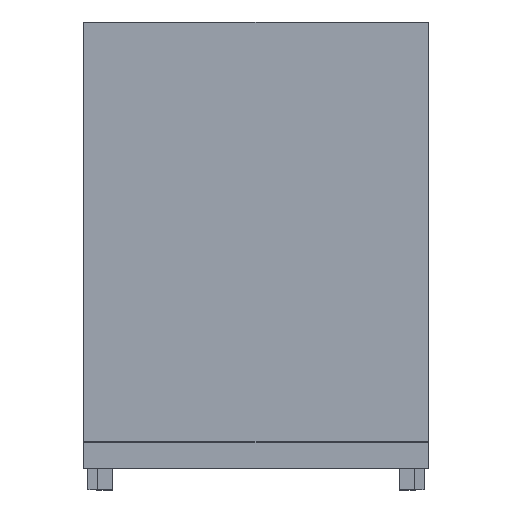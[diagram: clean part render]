
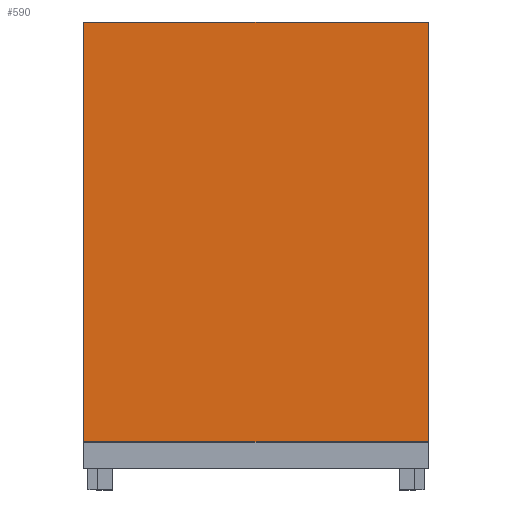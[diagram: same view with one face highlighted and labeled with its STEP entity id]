
A CAD part, top view. The second image highlights one B-rep face of the part: STEP entity #590.
In plain terms, the highlighted planar face has unit normal (0, 0, 1).
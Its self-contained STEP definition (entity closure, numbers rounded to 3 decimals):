
#590=ADVANCED_FACE('',(#4774),#4776,.T.);
#4774=FACE_BOUND('',#4775,.T.);
#4775=EDGE_LOOP('',(#8452,#8453,#8454,#8455));
#4776=PLANE('',#4777);
#4777=AXIS2_PLACEMENT_3D('',#4778,#4779,#4780);
#4778=CARTESIAN_POINT('',(0.,50.25,141.3));
#4779=DIRECTION('',(0.,0.,1.));
#4780=DIRECTION('',(1.,0.,0.));
#8452=ORIENTED_EDGE('',*,*,#10228,.T.);
#8453=ORIENTED_EDGE('',*,*,#10251,.F.);
#8454=ORIENTED_EDGE('',*,*,#10249,.F.);
#8455=ORIENTED_EDGE('',*,*,#10247,.F.);
#10228=EDGE_CURVE('',#12925,#12923,#12926,.T.);
#10247=EDGE_CURVE('',#12925,#12953,#12954,.F.);
#10249=EDGE_CURVE('',#12953,#12956,#12957,.F.);
#10251=EDGE_CURVE('',#12956,#12923,#12959,.F.);
#12923=VERTEX_POINT('',#19353);
#12925=VERTEX_POINT('',#19357);
#12926=LINE('',#19358,#19359);
#12953=VERTEX_POINT('',#19423);
#12954=LINE('',#19424,#19425);
#12956=VERTEX_POINT('',#19430);
#12957=LINE('',#19431,#19432);
#12959=LINE('',#19437,#19438);
#19353=CARTESIAN_POINT('',(297.8,-311.5,141.3));
#19357=CARTESIAN_POINT('',(-297.8,-311.5,141.3));
#19358=CARTESIAN_POINT('',(-297.8,-311.5,141.3));
#19359=VECTOR('',#19360,1.);
#19360=DIRECTION('',(1.,0.,0.));
#19423=CARTESIAN_POINT('',(-297.8,413.3,141.3));
#19424=CARTESIAN_POINT('',(-297.8,413.3,141.3));
#19425=VECTOR('',#19426,1.);
#19426=DIRECTION('',(0.,-1.,0.));
#19430=CARTESIAN_POINT('',(297.8,413.3,141.3));
#19431=CARTESIAN_POINT('',(297.8,413.3,141.3));
#19432=VECTOR('',#19433,1.);
#19433=DIRECTION('',(-1.,0.,0.));
#19437=CARTESIAN_POINT('',(297.8,-311.5,141.3));
#19438=VECTOR('',#19439,1.);
#19439=DIRECTION('',(0.,1.,0.));
